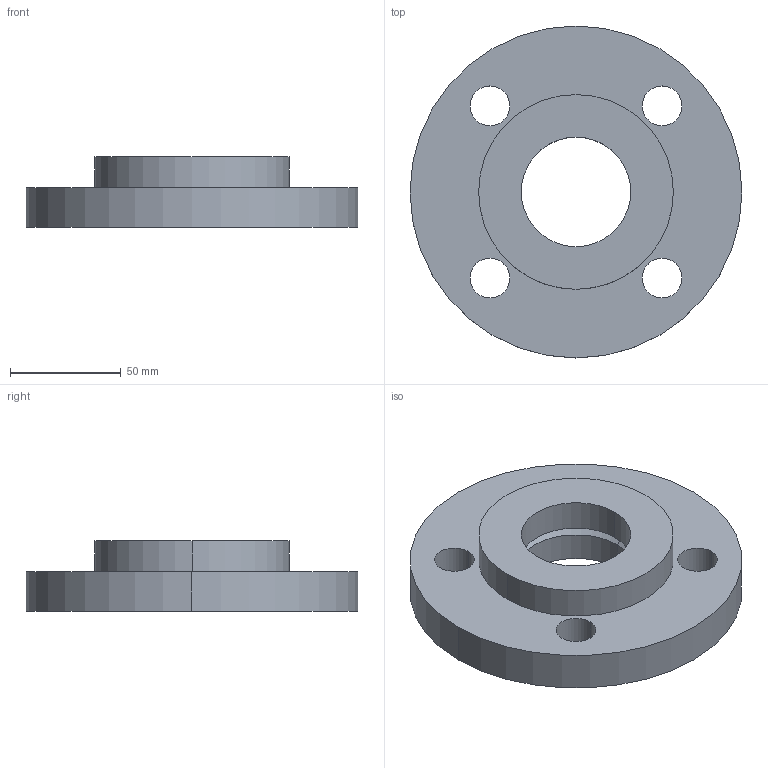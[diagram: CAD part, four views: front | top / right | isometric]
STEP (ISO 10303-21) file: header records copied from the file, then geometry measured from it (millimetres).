
FILE_DESCRIPTION (( 'STEP AP214' ), '1' );
FILE_NAME ('PN40 DN40 Type 02 in 32 - (Type A Face).STEP', '2018-12-30T02:31:20', ( '' ), ( '' ), 'SwSTEP 2.0', 'SolidWorks 2019', '' );
FILE_SCHEMA (( 'AUTOMOTIVE_DESIGN' ));
Length unit declared in the file: millimetre
Products named in the file (1): PN40 DN40 Type 02 in 32 - (Type A Face)
Bounding box: 150 x 150 x 32 mm (x, y, z)
Volume: 316048.8 mm3; surface area: 58353.5 mm2
Topology: 2 solids, 2 shells, 22 faces, 52 edges, 34 vertices
Faces by surface type: cylinder 16, plane 4, cone 2
Entity records: 721 total; most frequent: DIRECTION 132, CARTESIAN_POINT 109, ORIENTED_EDGE 104, AXIS2_PLACEMENT_3D 57, EDGE_CURVE 52, CIRCLE 34, VERTEX_POINT 34, EDGE_LOOP 34
